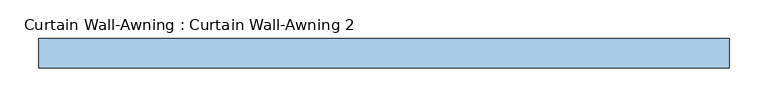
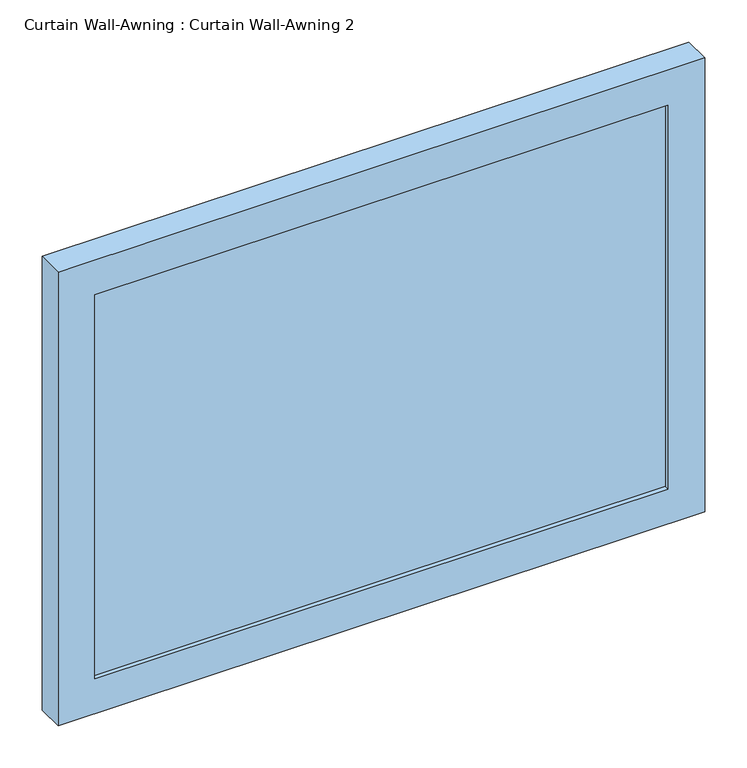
"""IFC4 building model written with IfcOpenShell, lengths in millimetres: window geometry, Curtain Wall-Awning : Curtain Wall-Awning 2."""

from ifc_helpers import new_model, si_unit, frame, origin, place, context, project, spatial, polyline, outline, extrude, source, transform, mapped, element, save


def curtain_wall_awning_curtain_wall_awning_2_6bc1f89d(model_context):
    return source(origin(), model_context, "Body", "SweptSolid", [
        extrude(outline(polyline([(393.7, 19.05), (393.7, 6.35), (-393.7, 6.35), (-393.7, 19.05), (393.7, 19.05)])), frame((0.0, 0.0, 50.8), z_axis=(0.0, 0.0, 1.0), x_axis=(1.0, 0.0, 0.0)), (0.0, 0.0, 1.0), 557.907202),
        extrude(outline(polyline([(659.507202, -444.5), (0.0, -444.5), (0.0, 444.5), (659.507202, 444.5), (659.507202, -444.5)]), holes=[polyline([(608.707202, -393.7), (608.707202, 393.7), (50.8, 393.7), (50.8, -393.7), (608.707202, -393.7)])]), frame((0.0, 0.0, 0.0), z_axis=(0.0, 1.0, 0.0), x_axis=(0.0, 0.0, 1.0)), (0.0, 0.0, 1.0), 38.1),
    ])


if __name__ == "__main__":
    model = new_model("IFC4")
    model_context = context("Model", 3, world=origin())
    ifc_project = project(units=[si_unit("LENGTHUNIT", "METRE", prefix="MILLI")], contexts=[model_context])
    site = spatial("IfcSite", under=ifc_project)
    building = spatial("IfcBuilding", under=site)
    placement = place(None, origin())
    curtain_wall_awning_curtain_wall_awning_2_shape = curtain_wall_awning_curtain_wall_awning_2_6bc1f89d(model_context)
    element("IfcWindow", 1, ObjectType="Curtain Wall-Awning : Curtain Wall-Awning 2", at=placement, inside=building, context=model_context, shape_type="MappedRepresentation", body=[
        mapped(curtain_wall_awning_curtain_wall_awning_2_shape, transform((0.0, 0.0, 0.0), x_axis=(1.0, 0.0, 0.0), y_axis=(0.0, 1.0, 0.0), z_axis=(0.0, 0.0, 1.0))),
    ])
    save(model, "model.ifc")
